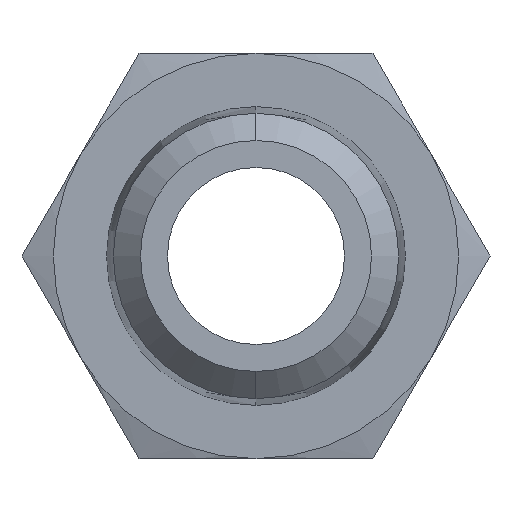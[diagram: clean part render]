
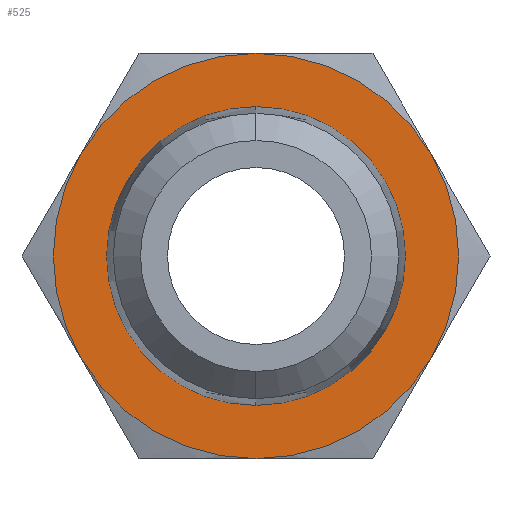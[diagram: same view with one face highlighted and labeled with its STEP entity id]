
A CAD part, left-side view. The second image highlights one B-rep face of the part: STEP entity #525.
In plain terms, the highlighted planar face has unit normal (-1, 0, 0).
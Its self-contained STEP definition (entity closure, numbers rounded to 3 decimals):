
#187 = VERTEX_POINT ( 'NONE', #677 ) ;
#205 = VERTEX_POINT ( 'NONE', #811 ) ;
#207 = EDGE_CURVE ( 'NONE', #205, #208, #810, .T. ) ;
#208 = VERTEX_POINT ( 'NONE', #805 ) ;
#303 = ORIENTED_EDGE ( 'NONE', *, *, #304, .F. ) ;
#304 = EDGE_CURVE ( 'NONE', #407, #316, #1151, .T. ) ;
#305 = ORIENTED_EDGE ( 'NONE', *, *, #306, .F. ) ;
#306 = EDGE_CURVE ( 'NONE', #537, #407, #1146, .T. ) ;
#307 = VERTEX_POINT ( 'NONE', #1141 ) ;
#316 = VERTEX_POINT ( 'NONE', #1176 ) ;
#407 = VERTEX_POINT ( 'NONE', #1403 ) ;
#467 = ORIENTED_EDGE ( 'NONE', *, *, #468, .F. ) ;
#468 = EDGE_CURVE ( 'NONE', #307, #537, #1290, .T. ) ;
#469 = ORIENTED_EDGE ( 'NONE', *, *, #470, .T. ) ;
#470 = EDGE_CURVE ( 'NONE', #307, #500, #1285, .T. ) ;
#471 = ORIENTED_EDGE ( 'NONE', *, *, #472, .F. ) ;
#472 = EDGE_CURVE ( 'NONE', #187, #500, #1281, .T. ) ;
#483 = ORIENTED_EDGE ( 'NONE', *, *, #484, .F. ) ;
#484 = EDGE_CURVE ( 'NONE', #316, #187, #1356, .T. ) ;
#500 = VERTEX_POINT ( 'NONE', #1384 ) ;
#525 = ADVANCED_FACE ( 'NONE', ( #1576, #1574 ), #1573, .F. ) ;
#526 = EDGE_LOOP ( 'NONE', ( #527, #529 ) ) ;
#527 = ORIENTED_EDGE ( 'NONE', *, *, #528, .F. ) ;
#528 = EDGE_CURVE ( 'NONE', #208, #205, #1503, .T. ) ;
#529 = ORIENTED_EDGE ( 'NONE', *, *, #207, .F. ) ;
#530 = EDGE_LOOP ( 'NONE', ( #483, #303, #305, #467, #469, #471 ) ) ;
#537 = VERTEX_POINT ( 'NONE', #1483 ) ;
#677 = CARTESIAN_POINT ( 'NONE',  ( 0., 10.31, -5.952 ) ) ;
#805 = CARTESIAN_POINT ( 'NONE',  ( 0., 0., 8.776 ) ) ;
#806 = DIRECTION ( 'NONE',  ( 0., 0., -1. ) ) ;
#807 = DIRECTION ( 'NONE',  ( -1., 0., 0. ) ) ;
#808 = CARTESIAN_POINT ( 'NONE',  ( 0., 0., 0. ) ) ;
#809 = AXIS2_PLACEMENT_3D ( 'NONE', #808, #807, #806 ) ;
#810 = CIRCLE ( 'NONE', #809, 8.776 ) ;
#811 = CARTESIAN_POINT ( 'NONE',  ( 0., 0., -8.776 ) ) ;
#1141 = CARTESIAN_POINT ( 'NONE',  ( 0., 0., 11.905 ) ) ;
#1142 = DIRECTION ( 'NONE',  ( 0., 0., -1. ) ) ;
#1143 = DIRECTION ( 'NONE',  ( 1., 0., 0. ) ) ;
#1144 = CARTESIAN_POINT ( 'NONE',  ( 0., 0., 0. ) ) ;
#1145 = AXIS2_PLACEMENT_3D ( 'NONE', #1144, #1143, #1142 ) ;
#1146 = CIRCLE ( 'NONE', #1145, 11.905 ) ;
#1147 = DIRECTION ( 'NONE',  ( 0., 0., -1. ) ) ;
#1148 = DIRECTION ( 'NONE',  ( 1., 0., 0. ) ) ;
#1149 = CARTESIAN_POINT ( 'NONE',  ( 0., 0., 0. ) ) ;
#1150 = AXIS2_PLACEMENT_3D ( 'NONE', #1149, #1148, #1147 ) ;
#1151 = CIRCLE ( 'NONE', #1150, 11.905 ) ;
#1176 = CARTESIAN_POINT ( 'NONE',  ( 0., 0., -11.905 ) ) ;
#1277 = DIRECTION ( 'NONE',  ( 0., 0., -1. ) ) ;
#1278 = DIRECTION ( 'NONE',  ( 1., 0., 0. ) ) ;
#1279 = CARTESIAN_POINT ( 'NONE',  ( 0., 0., 0. ) ) ;
#1280 = AXIS2_PLACEMENT_3D ( 'NONE', #1279, #1278, #1277 ) ;
#1281 = CIRCLE ( 'NONE', #1280, 11.905 ) ;
#1282 = DIRECTION ( 'NONE',  ( 0., 0., 1. ) ) ;
#1283 = DIRECTION ( 'NONE',  ( -1., 0., 0. ) ) ;
#1284 = AXIS2_PLACEMENT_3D ( 'NONE', #1291, #1283, #1282 ) ;
#1285 = CIRCLE ( 'NONE', #1284, 11.905 ) ;
#1286 = DIRECTION ( 'NONE',  ( 0., 0., -1. ) ) ;
#1287 = DIRECTION ( 'NONE',  ( 1., 0., 0. ) ) ;
#1288 = CARTESIAN_POINT ( 'NONE',  ( 0., 0., 0. ) ) ;
#1289 = AXIS2_PLACEMENT_3D ( 'NONE', #1288, #1287, #1286 ) ;
#1290 = CIRCLE ( 'NONE', #1289, 11.905 ) ;
#1291 = CARTESIAN_POINT ( 'NONE',  ( 0., 0., 0. ) ) ;
#1352 = DIRECTION ( 'NONE',  ( 0., 0., -1. ) ) ;
#1353 = DIRECTION ( 'NONE',  ( 1., 0., 0. ) ) ;
#1354 = CARTESIAN_POINT ( 'NONE',  ( 0., 0., 0. ) ) ;
#1355 = AXIS2_PLACEMENT_3D ( 'NONE', #1354, #1353, #1352 ) ;
#1356 = CIRCLE ( 'NONE', #1355, 11.905 ) ;
#1384 = CARTESIAN_POINT ( 'NONE',  ( 0., 10.31, 5.952 ) ) ;
#1403 = CARTESIAN_POINT ( 'NONE',  ( 0., -10.31, -5.953 ) ) ;
#1483 = CARTESIAN_POINT ( 'NONE',  ( 0., -10.31, 5.953 ) ) ;
#1499 = DIRECTION ( 'NONE',  ( 0., 0., -1. ) ) ;
#1500 = DIRECTION ( 'NONE',  ( -1., 0., 0. ) ) ;
#1501 = CARTESIAN_POINT ( 'NONE',  ( 0., 0., 0. ) ) ;
#1502 = AXIS2_PLACEMENT_3D ( 'NONE', #1501, #1500, #1499 ) ;
#1503 = CIRCLE ( 'NONE', #1502, 8.776 ) ;
#1504 = DIRECTION ( 'NONE',  ( 0., 0., -1. ) ) ;
#1505 = DIRECTION ( 'NONE',  ( 1., 0., 0. ) ) ;
#1506 = CARTESIAN_POINT ( 'NONE',  ( 0., 13.747, 0. ) ) ;
#1507 = AXIS2_PLACEMENT_3D ( 'NONE', #1506, #1505, #1504 ) ;
#1573 = PLANE ( 'NONE',  #1507 ) ;
#1574 = FACE_OUTER_BOUND ( 'NONE', #530, .T. ) ;
#1576 = FACE_BOUND ( 'NONE', #526, .T. ) ;
